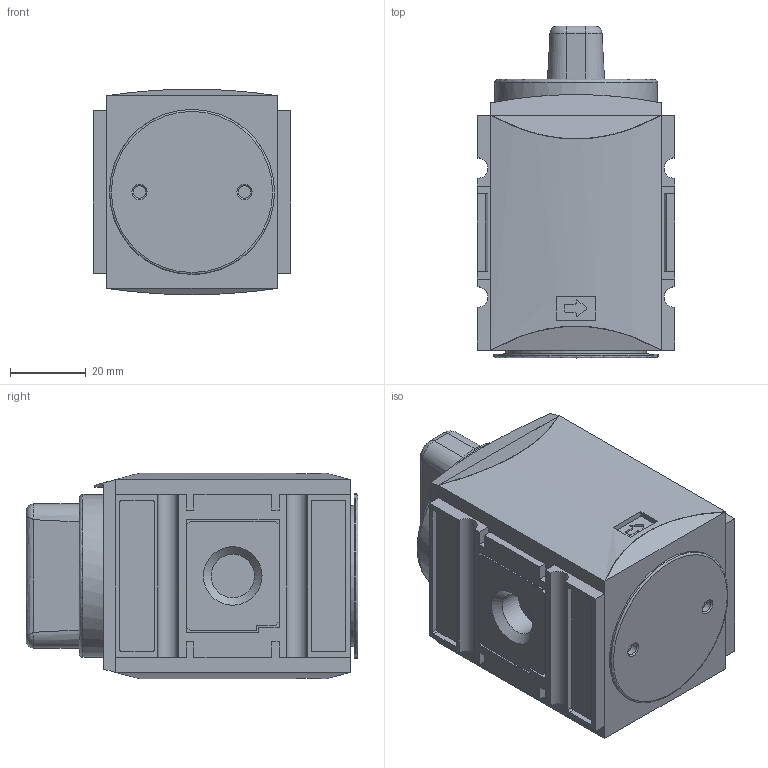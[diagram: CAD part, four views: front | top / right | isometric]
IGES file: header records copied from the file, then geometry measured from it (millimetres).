
Start section: Data from Parasolid IGES Translator 17.0.49, Copyright(c) 2006 Siemens P LM Software. All Rights Reserved.
Global section: file name: FU 951.igs; native system: By Siemens PLM Incorporated; preprocessor: XPlus GENERIC/IGES 17.0.49; author: Noname; organization: Noname; date: 20170112.152450; units: millimetre
Bounding box: 52 x 87.5 x 54.18 mm (x, y, z)
Surface area: 25216.8 mm2 (no closed solid volume)
Topology: 0 solids, 0 shells, 298 faces, 1576 edges, 1552 vertices
Faces by surface type: extrusion 200, revolution 98
